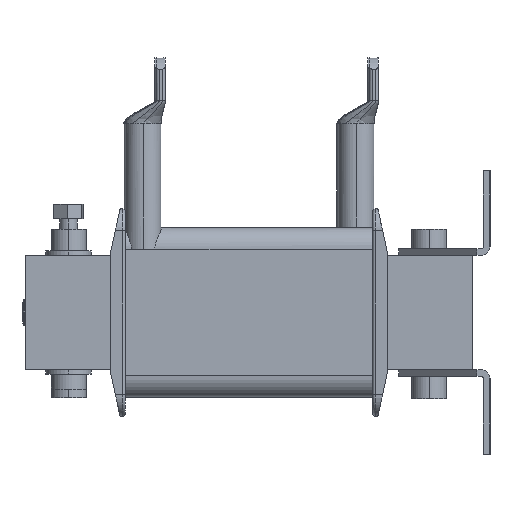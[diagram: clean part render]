
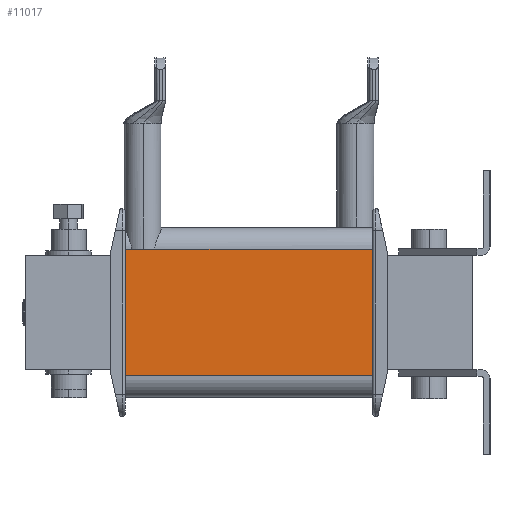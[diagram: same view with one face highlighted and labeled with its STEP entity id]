
A CAD part, left-side view. The second image highlights one B-rep face of the part: STEP entity #11017.
In plain terms, the highlighted planar face has unit normal (-1, 0, 0).
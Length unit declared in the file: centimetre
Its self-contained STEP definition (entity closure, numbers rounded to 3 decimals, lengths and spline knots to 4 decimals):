
#426 = DIRECTION ( 'NONE',  ( 0., -1., 0. ) ) ;
#542 = DIRECTION ( 'NONE',  ( -1., 0., 0. ) ) ;
#888 = DIRECTION ( 'NONE',  ( 0., -1., 0. ) ) ;
#1159 = CARTESIAN_POINT ( 'NONE',  ( -11.425, 16.815, 2.925 ) ) ;
#1530 = FACE_OUTER_BOUND ( 'NONE', #5772, .T. ) ;
#1622 = LINE ( 'NONE', #2699, #7153 ) ;
#1633 = EDGE_CURVE ( 'NONE', #4101, #12453, #3893, .T. ) ;
#2123 = VECTOR ( 'NONE', #888, 100. ) ;
#2145 = DIRECTION ( 'NONE',  ( 0., 0., -1. ) ) ;
#2486 = VECTOR ( 'NONE', #426, 100. ) ;
#2539 = ORIENTED_EDGE ( 'NONE', *, *, #12350, .F. ) ;
#2699 = CARTESIAN_POINT ( 'NONE',  ( -11.425, 27.2335, 2.925 ) ) ;
#2803 = EDGE_CURVE ( 'NONE', #10713, #13972, #6661, .T. ) ;
#2976 = LINE ( 'NONE', #9778, #7005 ) ;
#3010 = DIRECTION ( 'NONE',  ( 0., 0., 1. ) ) ;
#3633 = CARTESIAN_POINT ( 'NONE',  ( -11.425, 16.5345, 2.925 ) ) ;
#3698 = AXIS2_PLACEMENT_3D ( 'NONE', #14240, #542, #3010 ) ;
#3893 = LINE ( 'NONE', #10460, #6126 ) ;
#4101 = VERTEX_POINT ( 'NONE', #1159 ) ;
#4244 = CARTESIAN_POINT ( 'NONE',  ( -11.425, 15.4575, 2.925 ) ) ;
#5067 = DIRECTION ( 'NONE',  ( 0., 1., 0. ) ) ;
#5251 = EDGE_CURVE ( 'NONE', #13972, #15932, #2976, .T. ) ;
#5772 = EDGE_LOOP ( 'NONE', ( #2539, #6348, #10410, #16181, #7997, #9050 ) ) ;
#6126 = VECTOR ( 'NONE', #12839, 100. ) ;
#6348 = ORIENTED_EDGE ( 'NONE', *, *, #1633, .T. ) ;
#6661 = LINE ( 'NONE', #11666, #2486 ) ;
#6698 = PLANE ( 'NONE',  #3698 ) ;
#6740 = CARTESIAN_POINT ( 'NONE',  ( -11.425, 27.2335, 2.925 ) ) ;
#7005 = VECTOR ( 'NONE', #2145, 100. ) ;
#7098 = VECTOR ( 'NONE', #9534, 100. ) ;
#7153 = VECTOR ( 'NONE', #5067, 100. ) ;
#7444 = CARTESIAN_POINT ( 'NONE',  ( -11.425, 5.415, 2.925 ) ) ;
#7997 = ORIENTED_EDGE ( 'NONE', *, *, #2803, .F. ) ;
#9050 = ORIENTED_EDGE ( 'NONE', *, *, #15235, .T. ) ;
#9534 = DIRECTION ( 'NONE',  ( 0., -1., 0. ) ) ;
#9590 = LINE ( 'NONE', #12126, #2123 ) ;
#9778 = CARTESIAN_POINT ( 'NONE',  ( -11.425, 5.415, -2.925 ) ) ;
#10410 = ORIENTED_EDGE ( 'NONE', *, *, #10844, .T. ) ;
#10460 = CARTESIAN_POINT ( 'NONE',  ( -11.425, 16.815, -2.925 ) ) ;
#10683 = CARTESIAN_POINT ( 'NONE',  ( -11.425, 16.815, -2.925 ) ) ;
#10713 = VERTEX_POINT ( 'NONE', #4244 ) ;
#10844 = EDGE_CURVE ( 'NONE', #12453, #15932, #9590, .T. ) ;
#11017 = ADVANCED_FACE ( 'NONE', ( #1530 ), #6698, .T. ) ;
#11666 = CARTESIAN_POINT ( 'NONE',  ( -11.425, 27.2335, 2.925 ) ) ;
#12126 = CARTESIAN_POINT ( 'NONE',  ( -11.425, 27.2335, -2.925 ) ) ;
#12350 = EDGE_CURVE ( 'NONE', #4101, #13586, #13136, .T. ) ;
#12453 = VERTEX_POINT ( 'NONE', #10683 ) ;
#12839 = DIRECTION ( 'NONE',  ( 0., 0., -1. ) ) ;
#13136 = LINE ( 'NONE', #6740, #7098 ) ;
#13586 = VERTEX_POINT ( 'NONE', #3633 ) ;
#13972 = VERTEX_POINT ( 'NONE', #7444 ) ;
#14240 = CARTESIAN_POINT ( 'NONE',  ( -11.425, 27.2335, -2.925 ) ) ;
#14494 = CARTESIAN_POINT ( 'NONE',  ( -11.425, 5.415, -2.925 ) ) ;
#15235 = EDGE_CURVE ( 'NONE', #10713, #13586, #1622, .T. ) ;
#15932 = VERTEX_POINT ( 'NONE', #14494 ) ;
#16181 = ORIENTED_EDGE ( 'NONE', *, *, #5251, .F. ) ;
